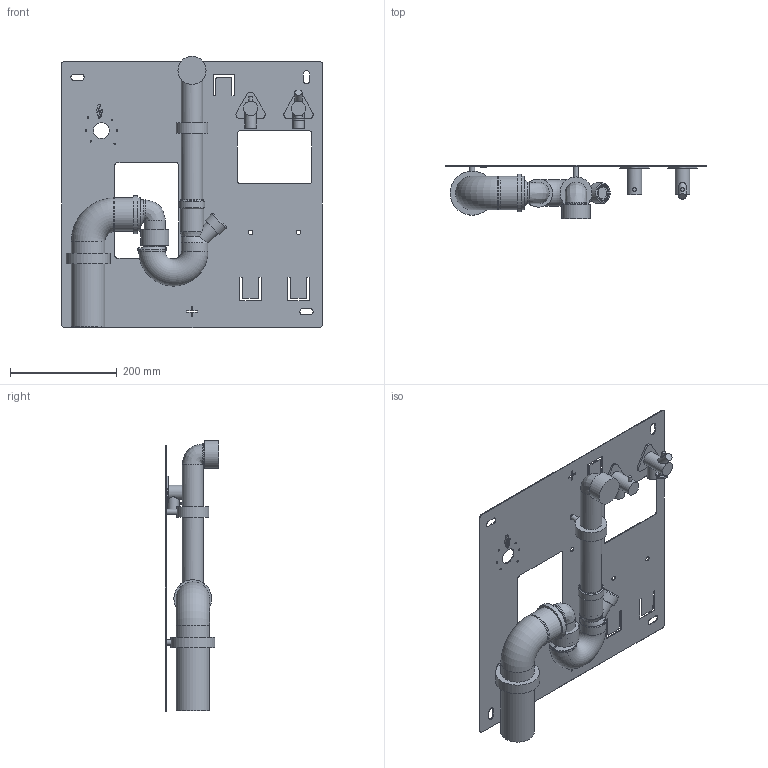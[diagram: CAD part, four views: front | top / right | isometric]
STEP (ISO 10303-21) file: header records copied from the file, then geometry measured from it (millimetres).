
FILE_DESCRIPTION(('STEP AP214'),'1');
FILE_NAME('NYFFix_7930R.STP','2025-09-02T13:10:25',(' '),(' '),'Spatial InterOp 3D',' ',' ');
FILE_SCHEMA(('AUTOMOTIVE_DESIGN { 1 0 10303 214 1 1 1 1 }'));
Length unit declared in the file: millimetre
Products named in the file (1): Torus
Bounding box: 490 x 100 x 509.28 mm (x, y, z)
Volume: 997963.5 mm3; surface area: 819294.1 mm2
Topology: 16 solids, 16 shells, 430 faces, 1118 edges, 722 vertices
Faces by surface type: cylinder 199, plane 176, cone 21, torus 19, bspline 15
Full cylindrical faces by diameter (mm): 3 x6, 5.1 x6, 7 x2, 8.5 x5, 10 x2, 13.867 x1, 14 x1, 21 x2, 22 x1, 22.622 x1, 26.818 x2, 30 x2, 30.2 x2, 33.249 x2, 36 x3, 36.1 x2, 38 x1, 39 x1, 40 x5, 40.1 x2, 40.5 x1, 40.625 x1, 44.5 x6, 46 x2, 48 x2, 48.318 x1, 50 x2, 52 x1, 52.739 x2, 56 x1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
Entity records: 15738 total; most frequent: CARTESIAN_POINT 4009, DIRECTION 2167, ORIENTED_EDGE 1928, EDGE_CURVE 964, AXIS2_PLACEMENT_3D 870, VERTEX_POINT 690, EDGE_LOOP 632, ADVANCED_FACE 430
